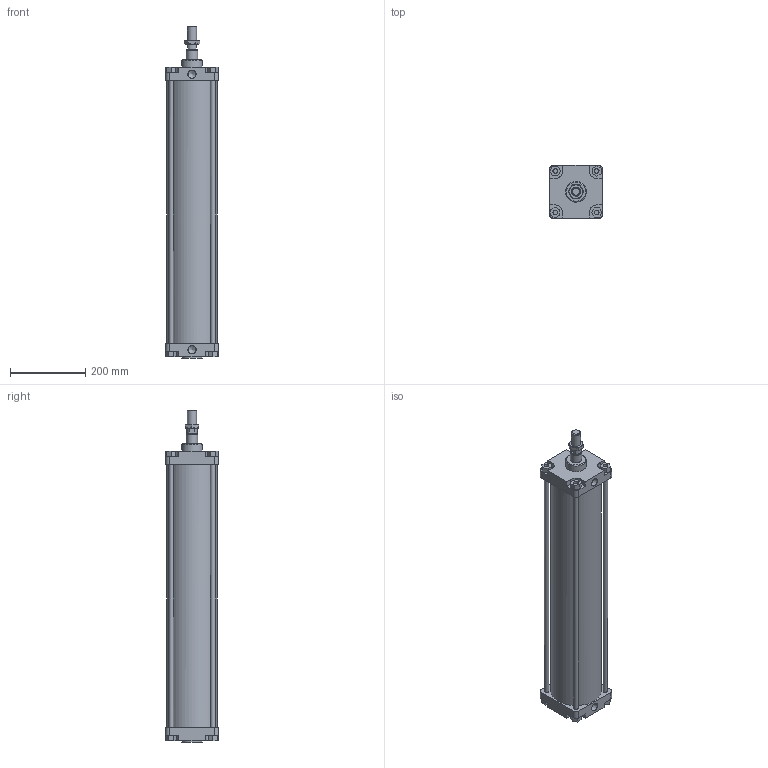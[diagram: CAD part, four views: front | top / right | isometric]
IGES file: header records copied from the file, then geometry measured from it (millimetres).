
Global section: file name: 1304_125_0600_01A; native system: Autodesk Inventor 2014; preprocessor: unknown; author: A. Manieri; date: 20161124.142518; units: millimetre
Bounding box: 140 x 140 x 880 mm (x, y, z)
Volume: 4445527.5 mm3; surface area: 953930.4 mm2
Topology: 9 solids, 9 shells, 175 faces, 440 edges, 295 vertices
Faces by surface type: bspline 175
